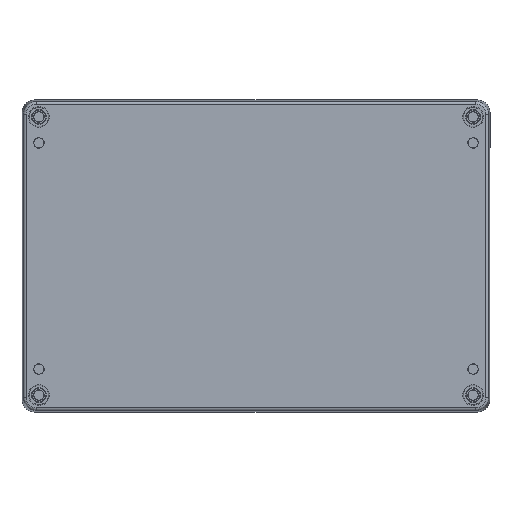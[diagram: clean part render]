
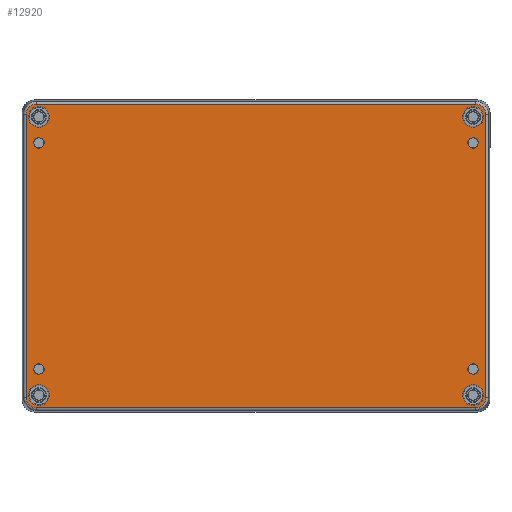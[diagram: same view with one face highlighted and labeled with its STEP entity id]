
A CAD part, front view. The second image highlights one B-rep face of the part: STEP entity #12920.
In plain terms, the highlighted planar face has unit normal (0, -1, 0) as drawn and (0, 0, -1) by its records, which use the part's own axes.
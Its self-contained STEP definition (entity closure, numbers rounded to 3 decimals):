
#1000=ELLIPSE('',#13765,4.001,4.);
#1001=ELLIPSE('',#13766,4.001,4.);
#1002=ELLIPSE('',#13767,4.001,4.);
#1003=ELLIPSE('',#13768,4.001,4.);
#1088=FACE_BOUND('',#2065,.T.);
#1089=FACE_BOUND('',#2066,.T.);
#1090=FACE_BOUND('',#2067,.T.);
#1091=FACE_BOUND('',#2068,.T.);
#1092=FACE_BOUND('',#2069,.T.);
#1093=FACE_BOUND('',#2070,.T.);
#1094=FACE_BOUND('',#2071,.T.);
#1095=FACE_BOUND('',#2072,.T.);
#1239=FACE_OUTER_BOUND('',#2064,.T.);
#2064=EDGE_LOOP('',(#8695,#8696,#8697,#8698,#8699,#8700,#8701,#8702));
#2065=EDGE_LOOP('',(#8703));
#2066=EDGE_LOOP('',(#8704));
#2067=EDGE_LOOP('',(#8705));
#2068=EDGE_LOOP('',(#8706));
#2069=EDGE_LOOP('',(#8707));
#2070=EDGE_LOOP('',(#8708));
#2071=EDGE_LOOP('',(#8709));
#2072=EDGE_LOOP('',(#8710));
#3036=LINE('',#19291,#3860);
#3037=LINE('',#19295,#3861);
#3038=LINE('',#19299,#3862);
#3039=LINE('',#19303,#3863);
#3860=VECTOR('',#15351,168.849);
#3861=VECTOR('',#15354,108.849);
#3862=VECTOR('',#15357,168.849);
#3863=VECTOR('',#15360,108.849);
#4692=CIRCLE('',#13769,4.);
#4693=CIRCLE('',#13770,4.);
#4694=CIRCLE('',#13771,4.);
#4695=CIRCLE('',#13772,4.);
#4696=CIRCLE('',#13773,2.);
#4697=CIRCLE('',#13774,2.);
#4698=CIRCLE('',#13775,2.);
#4699=CIRCLE('',#13776,2.);
#5421=VERTEX_POINT('',#19289);
#5422=VERTEX_POINT('',#19290);
#5423=VERTEX_POINT('',#19292);
#5424=VERTEX_POINT('',#19294);
#5425=VERTEX_POINT('',#19296);
#5426=VERTEX_POINT('',#19298);
#5427=VERTEX_POINT('',#19300);
#5428=VERTEX_POINT('',#19302);
#5429=VERTEX_POINT('',#19305);
#5430=VERTEX_POINT('',#19307);
#5431=VERTEX_POINT('',#19309);
#5432=VERTEX_POINT('',#19311);
#5433=VERTEX_POINT('',#19313);
#5434=VERTEX_POINT('',#19315);
#5435=VERTEX_POINT('',#19317);
#5436=VERTEX_POINT('',#19319);
#6714=EDGE_CURVE('',#5421,#5422,#3036,.T.);
#6715=EDGE_CURVE('',#5423,#5421,#1000,.T.);
#6716=EDGE_CURVE('',#5424,#5423,#3037,.T.);
#6717=EDGE_CURVE('',#5425,#5424,#1001,.T.);
#6718=EDGE_CURVE('',#5426,#5425,#3038,.T.);
#6719=EDGE_CURVE('',#5427,#5426,#1002,.T.);
#6720=EDGE_CURVE('',#5428,#5427,#3039,.T.);
#6721=EDGE_CURVE('',#5422,#5428,#1003,.T.);
#6722=EDGE_CURVE('',#5429,#5429,#4692,.T.);
#6723=EDGE_CURVE('',#5430,#5430,#4693,.T.);
#6724=EDGE_CURVE('',#5431,#5431,#4694,.T.);
#6725=EDGE_CURVE('',#5432,#5432,#4695,.T.);
#6726=EDGE_CURVE('',#5433,#5433,#4696,.T.);
#6727=EDGE_CURVE('',#5434,#5434,#4697,.T.);
#6728=EDGE_CURVE('',#5435,#5435,#4698,.T.);
#6729=EDGE_CURVE('',#5436,#5436,#4699,.T.);
#8695=ORIENTED_EDGE('',*,*,#6714,.F.);
#8696=ORIENTED_EDGE('',*,*,#6715,.F.);
#8697=ORIENTED_EDGE('',*,*,#6716,.F.);
#8698=ORIENTED_EDGE('',*,*,#6717,.F.);
#8699=ORIENTED_EDGE('',*,*,#6718,.F.);
#8700=ORIENTED_EDGE('',*,*,#6719,.F.);
#8701=ORIENTED_EDGE('',*,*,#6720,.F.);
#8702=ORIENTED_EDGE('',*,*,#6721,.F.);
#8703=ORIENTED_EDGE('',*,*,#6722,.T.);
#8704=ORIENTED_EDGE('',*,*,#6723,.T.);
#8705=ORIENTED_EDGE('',*,*,#6724,.T.);
#8706=ORIENTED_EDGE('',*,*,#6725,.T.);
#8707=ORIENTED_EDGE('',*,*,#6726,.T.);
#8708=ORIENTED_EDGE('',*,*,#6727,.T.);
#8709=ORIENTED_EDGE('',*,*,#6728,.T.);
#8710=ORIENTED_EDGE('',*,*,#6729,.T.);
#12637=PLANE('',#13764);
#12920=ADVANCED_FACE('',(#1239,#1088,#1089,#1090,#1091,#1092,#1093,#1094,
#1095),#12637,.F.);
#13764=AXIS2_PLACEMENT_3D('',#19288,#15349,#15350);
#13765=AXIS2_PLACEMENT_3D('',#19293,#15352,#15353);
#13766=AXIS2_PLACEMENT_3D('',#19297,#15355,#15356);
#13767=AXIS2_PLACEMENT_3D('',#19301,#15358,#15359);
#13768=AXIS2_PLACEMENT_3D('',#19304,#15361,#15362);
#13769=AXIS2_PLACEMENT_3D('',#19306,#15363,#15364);
#13770=AXIS2_PLACEMENT_3D('',#19308,#15365,#15366);
#13771=AXIS2_PLACEMENT_3D('',#19310,#15367,#15368);
#13772=AXIS2_PLACEMENT_3D('',#19312,#15369,#15370);
#13773=AXIS2_PLACEMENT_3D('',#19314,#15371,#15372);
#13774=AXIS2_PLACEMENT_3D('',#19316,#15373,#15374);
#13775=AXIS2_PLACEMENT_3D('',#19318,#15375,#15376);
#13776=AXIS2_PLACEMENT_3D('',#19320,#15377,#15378);
#15349=DIRECTION('center_axis',(0.,0.,1.));
#15350=DIRECTION('ref_axis',(1.,0.,0.));
#15351=DIRECTION('',(1.,0.,0.));
#15352=DIRECTION('center_axis',(0.,0.,1.));
#15353=DIRECTION('ref_axis',(-0.707,-0.707,0.));
#15354=DIRECTION('',(0.,-1.,0.));
#15355=DIRECTION('center_axis',(0.,0.,1.));
#15356=DIRECTION('ref_axis',(-0.707,0.707,0.));
#15357=DIRECTION('',(-1.,0.,0.));
#15358=DIRECTION('center_axis',(0.,0.,1.));
#15359=DIRECTION('ref_axis',(0.707,0.707,0.));
#15360=DIRECTION('',(0.,1.,0.));
#15361=DIRECTION('center_axis',(0.,0.,1.));
#15362=DIRECTION('ref_axis',(0.707,-0.707,0.));
#15363=DIRECTION('center_axis',(0.,0.,1.));
#15364=DIRECTION('ref_axis',(1.,0.,0.));
#15365=DIRECTION('center_axis',(0.,0.,1.));
#15366=DIRECTION('ref_axis',(1.,0.,0.));
#15367=DIRECTION('center_axis',(0.,0.,1.));
#15368=DIRECTION('ref_axis',(1.,0.,0.));
#15369=DIRECTION('center_axis',(0.,0.,1.));
#15370=DIRECTION('ref_axis',(1.,0.,0.));
#15371=DIRECTION('center_axis',(0.,0.,1.));
#15372=DIRECTION('ref_axis',(1.,0.,0.));
#15373=DIRECTION('center_axis',(0.,0.,1.));
#15374=DIRECTION('ref_axis',(1.,0.,0.));
#15375=DIRECTION('center_axis',(0.,0.,1.));
#15376=DIRECTION('ref_axis',(1.,0.,0.));
#15377=DIRECTION('center_axis',(0.,0.,1.));
#15378=DIRECTION('ref_axis',(1.,0.,0.));
#19288=CARTESIAN_POINT('Origin',(77.276,-47.873,-45.));
#19289=CARTESIAN_POINT('',(-7.148,-106.297,-45.));
#19290=CARTESIAN_POINT('',(161.7,-106.297,-45.));
#19291=CARTESIAN_POINT('',(32.276,-106.297,-45.));
#19292=CARTESIAN_POINT('',(-11.148,-102.298,-45.));
#19293=CARTESIAN_POINT('Origin',(-7.148,-102.297,-45.));
#19294=CARTESIAN_POINT('',(-11.148,6.551,-45.));
#19295=CARTESIAN_POINT('',(-11.148,-17.873,-45.));
#19296=CARTESIAN_POINT('',(-7.148,10.551,-45.));
#19297=CARTESIAN_POINT('Origin',(-7.148,6.55,-45.));
#19298=CARTESIAN_POINT('',(161.7,10.551,-45.));
#19299=CARTESIAN_POINT('',(122.276,10.551,-45.));
#19300=CARTESIAN_POINT('',(165.7,6.551,-45.));
#19301=CARTESIAN_POINT('Origin',(161.7,6.55,-45.));
#19302=CARTESIAN_POINT('',(165.7,-102.298,-45.));
#19303=CARTESIAN_POINT('',(165.7,-77.873,-45.));
#19304=CARTESIAN_POINT('Origin',(161.7,-102.297,-45.));
#19305=CARTESIAN_POINT('',(-10.224,-101.373,-45.));
#19306=CARTESIAN_POINT('Origin',(-6.224,-101.373,-45.));
#19307=CARTESIAN_POINT('',(156.776,5.627,-45.));
#19308=CARTESIAN_POINT('Origin',(160.776,5.627,-45.));
#19309=CARTESIAN_POINT('',(-10.224,5.627,-45.));
#19310=CARTESIAN_POINT('Origin',(-6.224,5.627,-45.));
#19311=CARTESIAN_POINT('',(156.776,-101.373,-45.));
#19312=CARTESIAN_POINT('Origin',(160.776,-101.373,-45.));
#19313=CARTESIAN_POINT('',(158.776,-4.373,-45.));
#19314=CARTESIAN_POINT('Origin',(160.776,-4.373,-45.));
#19315=CARTESIAN_POINT('',(-8.224,-91.373,-45.));
#19316=CARTESIAN_POINT('Origin',(-6.224,-91.373,-45.));
#19317=CARTESIAN_POINT('',(-8.224,-4.373,-45.));
#19318=CARTESIAN_POINT('Origin',(-6.224,-4.373,-45.));
#19319=CARTESIAN_POINT('',(158.776,-91.373,-45.));
#19320=CARTESIAN_POINT('Origin',(160.776,-91.373,-45.));
